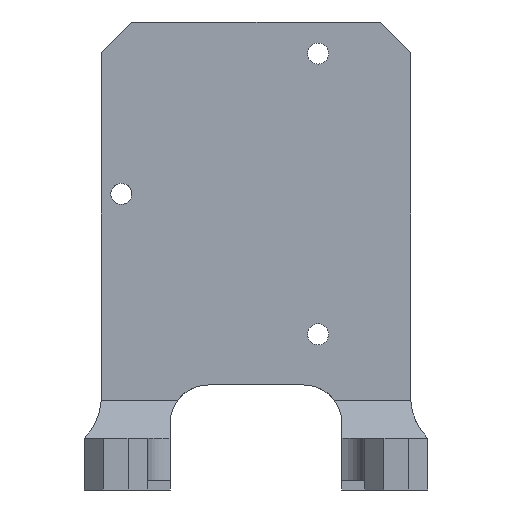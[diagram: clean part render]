
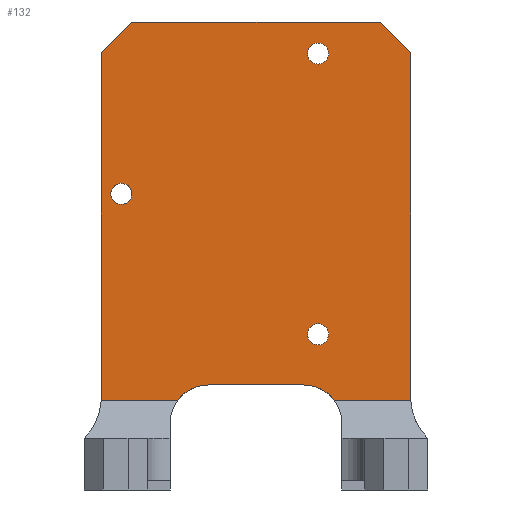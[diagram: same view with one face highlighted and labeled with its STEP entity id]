
A CAD part, left-side view. The second image highlights one B-rep face of the part: STEP entity #132.
In plain terms, the highlighted planar face has unit normal (-1, 0, 0).
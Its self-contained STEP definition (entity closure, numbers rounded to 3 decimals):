
#77=FACE_BOUND('',#257,.T.);
#78=FACE_BOUND('',#258,.T.);
#79=FACE_BOUND('',#259,.T.);
#80=FACE_BOUND('',#260,.T.);
#103=CIRCLE('',#981,2.);
#104=CIRCLE('',#984,2.);
#105=CIRCLE('',#1003,3.);
#106=CIRCLE('',#1004,3.);
#107=CIRCLE('',#1005,0.55);
#108=CIRCLE('',#1006,0.55);
#109=CIRCLE('',#1007,0.55);
#132=ADVANCED_FACE('',(#77,#78,#79,#80),#175,.F.);
#175=PLANE('',#1008);
#257=EDGE_LOOP('',(#428,#429,#430,#431,#432,#433,#434,#435,#436,#437,#438,
#439));
#258=EDGE_LOOP('',(#440));
#259=EDGE_LOOP('',(#441));
#260=EDGE_LOOP('',(#442));
#428=ORIENTED_EDGE('',*,*,#686,.F.);
#429=ORIENTED_EDGE('',*,*,#698,.T.);
#430=ORIENTED_EDGE('',*,*,#733,.T.);
#431=ORIENTED_EDGE('',*,*,#734,.F.);
#432=ORIENTED_EDGE('',*,*,#735,.T.);
#433=ORIENTED_EDGE('',*,*,#736,.F.);
#434=ORIENTED_EDGE('',*,*,#737,.T.);
#435=ORIENTED_EDGE('',*,*,#738,.T.);
#436=ORIENTED_EDGE('',*,*,#739,.T.);
#437=ORIENTED_EDGE('',*,*,#700,.T.);
#438=ORIENTED_EDGE('',*,*,#691,.F.);
#439=ORIENTED_EDGE('',*,*,#740,.F.);
#440=ORIENTED_EDGE('',*,*,#741,.T.);
#441=ORIENTED_EDGE('',*,*,#742,.T.);
#442=ORIENTED_EDGE('',*,*,#743,.T.);
#595=VERTEX_POINT('',#1401);
#596=VERTEX_POINT('',#1403);
#597=VERTEX_POINT('',#1407);
#599=VERTEX_POINT('',#1411);
#600=VERTEX_POINT('',#1422);
#601=VERTEX_POINT('',#1427);
#621=VERTEX_POINT('',#1489);
#622=VERTEX_POINT('',#1491);
#623=VERTEX_POINT('',#1493);
#624=VERTEX_POINT('',#1495);
#625=VERTEX_POINT('',#1497);
#626=VERTEX_POINT('',#1499);
#627=VERTEX_POINT('',#1503);
#628=VERTEX_POINT('',#1505);
#629=VERTEX_POINT('',#1507);
#686=EDGE_CURVE('',#595,#596,#103,.T.);
#691=EDGE_CURVE('',#599,#597,#104,.T.);
#698=EDGE_CURVE('',#595,#600,#808,.T.);
#700=EDGE_CURVE('',#601,#597,#810,.T.);
#733=EDGE_CURVE('',#600,#621,#105,.T.);
#734=EDGE_CURVE('',#622,#621,#839,.T.);
#735=EDGE_CURVE('',#622,#623,#840,.T.);
#736=EDGE_CURVE('',#624,#623,#841,.T.);
#737=EDGE_CURVE('',#624,#625,#842,.T.);
#738=EDGE_CURVE('',#625,#626,#843,.T.);
#739=EDGE_CURVE('',#626,#601,#106,.T.);
#740=EDGE_CURVE('',#596,#599,#844,.T.);
#741=EDGE_CURVE('',#627,#627,#107,.T.);
#742=EDGE_CURVE('',#628,#628,#108,.T.);
#743=EDGE_CURVE('',#629,#629,#109,.T.);
#808=LINE('',#1423,#909);
#810=LINE('',#1426,#911);
#839=LINE('',#1490,#940);
#840=LINE('',#1492,#941);
#841=LINE('',#1494,#942);
#842=LINE('',#1496,#943);
#843=LINE('',#1498,#944);
#844=LINE('',#1501,#945);
#909=VECTOR('',#1145,1.);
#911=VECTOR('',#1149,1.);
#940=VECTOR('',#1206,1.);
#941=VECTOR('',#1207,1.);
#942=VECTOR('',#1208,1.);
#943=VECTOR('',#1209,1.);
#944=VECTOR('',#1210,1.);
#945=VECTOR('',#1213,1.);
#981=AXIS2_PLACEMENT_3D('',#1402,#1121,#1122);
#984=AXIS2_PLACEMENT_3D('',#1412,#1130,#1131);
#1003=AXIS2_PLACEMENT_3D('',#1488,#1204,#1205);
#1004=AXIS2_PLACEMENT_3D('',#1500,#1211,#1212);
#1005=AXIS2_PLACEMENT_3D('',#1502,#1214,#1215);
#1006=AXIS2_PLACEMENT_3D('',#1504,#1216,#1217);
#1007=AXIS2_PLACEMENT_3D('',#1506,#1218,#1219);
#1008=AXIS2_PLACEMENT_3D('',#1508,#1220,#1221);
#1121=DIRECTION('',(-1.,0.,0.));
#1122=DIRECTION('',(0.,1.,0.));
#1130=DIRECTION('',(-1.,0.,0.));
#1131=DIRECTION('',(0.,1.,0.));
#1145=DIRECTION('',(0.,-1.,0.));
#1149=DIRECTION('',(0.,-1.,0.));
#1204=DIRECTION('',(1.,0.,0.));
#1205=DIRECTION('',(0.,1.,0.));
#1206=DIRECTION('',(0.,0.,-1.));
#1207=DIRECTION('',(0.,0.707,0.707));
#1208=DIRECTION('',(0.,-1.,0.));
#1209=DIRECTION('',(0.,0.707,-0.707));
#1210=DIRECTION('',(0.,0.,-1.));
#1211=DIRECTION('',(1.,0.,0.));
#1212=DIRECTION('',(0.,1.,0.));
#1213=DIRECTION('',(0.,1.,0.));
#1214=DIRECTION('',(1.,0.,0.));
#1215=DIRECTION('',(0.,1.,0.));
#1216=DIRECTION('',(1.,0.,0.));
#1217=DIRECTION('',(0.,1.,0.));
#1218=DIRECTION('',(1.,0.,0.));
#1219=DIRECTION('',(0.,1.,0.));
#1220=DIRECTION('',(1.,0.,0.));
#1221=DIRECTION('',(0.,1.,0.));
#1401=CARTESIAN_POINT('',(6.9,-4.1,4.2));
#1402=CARTESIAN_POINT('',(6.9,-2.5,3.));
#1403=CARTESIAN_POINT('',(6.9,-2.5,5.));
#1407=CARTESIAN_POINT('',(6.9,4.1,4.2));
#1411=CARTESIAN_POINT('',(6.9,2.5,5.));
#1412=CARTESIAN_POINT('',(6.9,2.5,3.));
#1422=CARTESIAN_POINT('',(6.9,-8.103,4.2));
#1423=CARTESIAN_POINT('',(6.9,8.1,4.2));
#1426=CARTESIAN_POINT('',(6.9,8.1,4.2));
#1427=CARTESIAN_POINT('',(6.9,8.103,4.2));
#1488=CARTESIAN_POINT('',(6.9,-11.1,4.342));
#1489=CARTESIAN_POINT('',(6.9,-8.1,4.342));
#1490=CARTESIAN_POINT('',(6.9,-8.1,24.));
#1491=CARTESIAN_POINT('',(6.9,-8.1,22.4));
#1492=CARTESIAN_POINT('',(6.9,-6.5,24.));
#1493=CARTESIAN_POINT('',(6.9,-6.5,24.));
#1494=CARTESIAN_POINT('',(6.9,8.1,24.));
#1495=CARTESIAN_POINT('',(6.9,6.5,24.));
#1496=CARTESIAN_POINT('',(6.9,6.5,24.));
#1497=CARTESIAN_POINT('',(6.9,8.1,22.4));
#1498=CARTESIAN_POINT('',(6.9,8.1,24.));
#1499=CARTESIAN_POINT('',(6.9,8.1,4.342));
#1500=CARTESIAN_POINT('',(6.9,11.1,4.342));
#1501=CARTESIAN_POINT('',(6.9,8.1,5.));
#1502=CARTESIAN_POINT('',(6.9,7.05,15.));
#1503=CARTESIAN_POINT('',(6.9,7.6,15.));
#1504=CARTESIAN_POINT('',(6.9,-3.25,22.35));
#1505=CARTESIAN_POINT('',(6.9,-2.7,22.35));
#1506=CARTESIAN_POINT('',(6.9,-3.25,7.65));
#1507=CARTESIAN_POINT('',(6.9,-2.7,7.65));
#1508=CARTESIAN_POINT('',(6.9,8.1,24.));
